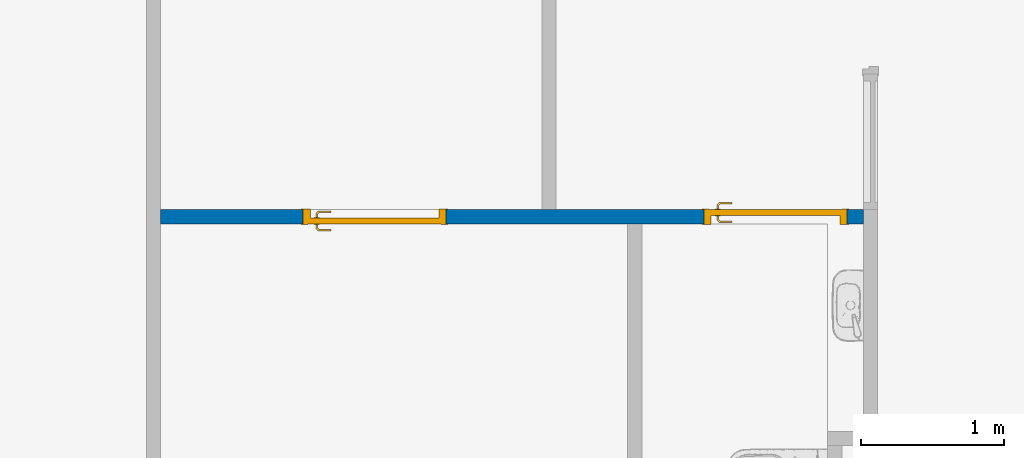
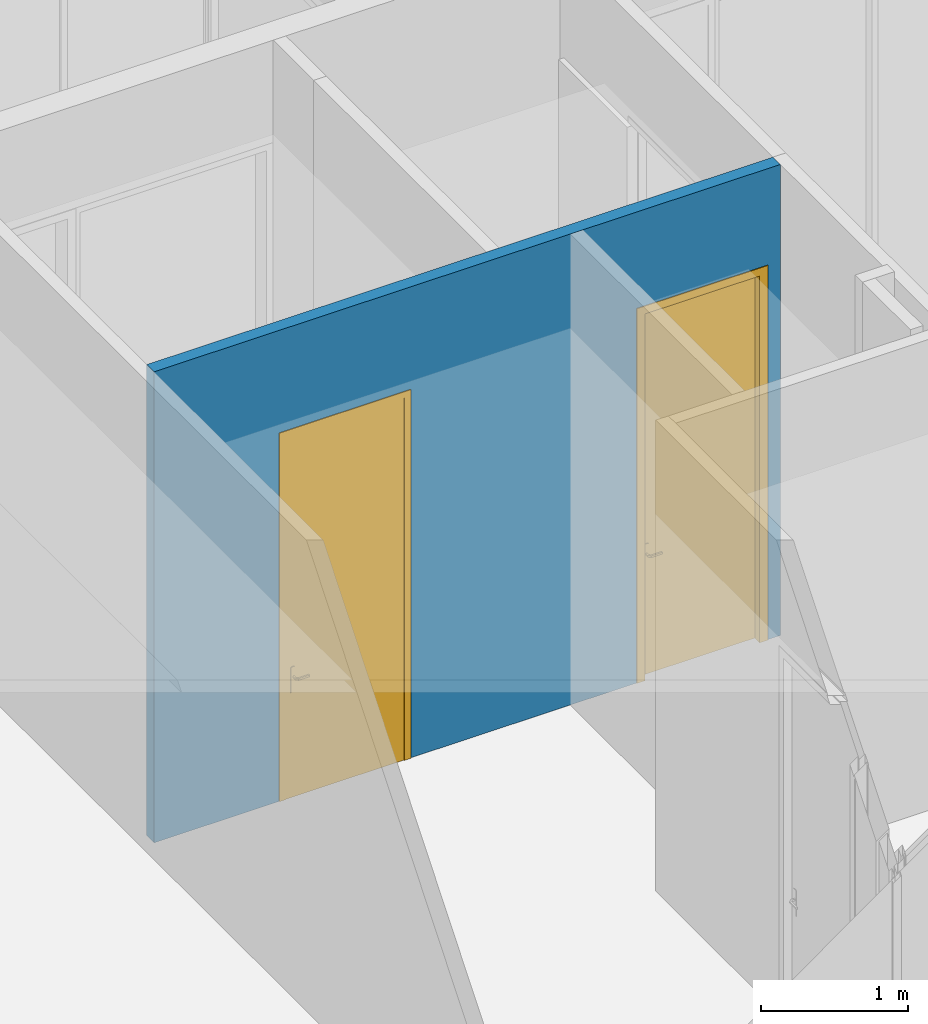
# One storey, part 150 of 240: 2 doors, 1 wall, 3 openings.
"""IFC2X3 building model written with IfcOpenShell, lengths in centimetres."""

from ifc_helpers import new_model, entity, si_unit, converted_unit, derived_unit, direction, frame, frame_2d, origin, place, context, subcontext, project, spatial, polyline, rectangle, extrude, clip, bounded_halfspace, faceted_brep, source, transform, mapped, material, material_list, layer, layer_set, layer_usage, type_object, type_shapes, element, fill, save


model = new_model("IFC2X3")

# Units and contexts
model_context = context("Model", 3, precision=0.001, world=origin(), true_north=direction((6.12303176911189e-17, 1.0)))
body_context = subcontext(model_context, "Body", "Model", "MODEL_VIEW")
ifc_project = project(units=[si_unit("LENGTHUNIT", "METRE", prefix="CENTI"), si_unit("AREAUNIT", "SQUARE_METRE"), si_unit("VOLUMEUNIT", "CUBIC_METRE"), converted_unit("PLANEANGLEUNIT", "DEGREE", entity("IfcRatioMeasure", 0.0174532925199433), si_unit("PLANEANGLEUNIT", "RADIAN"), dimensions=[0, 0, 0, 0, 0, 0, 0]), si_unit("MASSUNIT", "GRAM", prefix="KILO"), derived_unit("MASSDENSITYUNIT", [(si_unit("MASSUNIT", "GRAM", prefix="KILO"), 1), (si_unit("LENGTHUNIT", "METRE"), -3)]), si_unit("TIMEUNIT", "SECOND"), si_unit("FREQUENCYUNIT", "HERTZ"), si_unit("THERMODYNAMICTEMPERATUREUNIT", "DEGREE_CELSIUS"), derived_unit("THERMALTRANSMITTANCEUNIT", [(si_unit("MASSUNIT", "GRAM", prefix="KILO"), 1), (si_unit("THERMODYNAMICTEMPERATUREUNIT", "KELVIN"), -1), (si_unit("TIMEUNIT", "SECOND"), -3)]), derived_unit("VOLUMETRICFLOWRATEUNIT", [(si_unit("LENGTHUNIT", "METRE"), 3), (si_unit("TIMEUNIT", "SECOND"), -1)]), si_unit("ELECTRICCURRENTUNIT", "AMPERE"), si_unit("ELECTRICVOLTAGEUNIT", "VOLT"), si_unit("POWERUNIT", "WATT"), si_unit("FORCEUNIT", "NEWTON", prefix="KILO"), si_unit("ILLUMINANCEUNIT", "LUX"), si_unit("LUMINOUSFLUXUNIT", "LUMEN"), si_unit("LUMINOUSINTENSITYUNIT", "CANDELA"), derived_unit("USERDEFINED", [(si_unit("MASSUNIT", "GRAM", prefix="KILO"), -1), (si_unit("LENGTHUNIT", "METRE"), -2), (si_unit("TIMEUNIT", "SECOND"), 3), (si_unit("LUMINOUSFLUXUNIT", "LUMEN"), 1)]), derived_unit("LINEARVELOCITYUNIT", [(si_unit("LENGTHUNIT", "METRE"), 1), (si_unit("TIMEUNIT", "SECOND"), -1)]), si_unit("PRESSUREUNIT", "PASCAL"), derived_unit("USERDEFINED", [(si_unit("LENGTHUNIT", "METRE"), -2), (si_unit("MASSUNIT", "GRAM", prefix="KILO"), 1), (si_unit("TIMEUNIT", "SECOND"), -2)])], contexts=[model_context])

# Site, building, storey
site_placement = place(None, frame((-2781.94577612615, 7442.24238424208, 0.0)))
site = spatial("IfcSite", under=ifc_project, at=site_placement, Name="Default", CompositionType="ELEMENT")
building_placement = place(site_placement, origin())
building = spatial("IfcBuilding", under=site, at=building_placement, CompositionType="ELEMENT")
storey_placement = place(building_placement, origin())
storey = spatial("IfcBuildingStorey", under=building, at=storey_placement, Name="N00 - COO", CompositionType="ELEMENT", Elevation=0.0)

# Wall, openings, doors
ifc_material_1 = material(Name="01 - Enduit/Plâtre")
ifc_layer_1 = layer(ifc_material_1, 1.3)
ifc_material_2 = material(Name="00 - Isolant")
ifc_layer_2 = layer(ifc_material_2, 7.4)
ifc_layer_3 = layer(ifc_material_1, 1.3)
ifc_layer_set = layer_set([ifc_layer_1, ifc_layer_2, ifc_layer_3], Name="Mur de base:06 - cloisons - Ba13 10cm")
ifc_layer_usage = layer_usage(ifc_layer_set, "AXIS2", "NEGATIVE", 5.0)
wall_type = type_object("IfcWallType", Name="Mur de base:06 - cloisons - Ba13 10cm", PredefinedType="STANDARD", material=ifc_layer_set)
wall_placement = place(building_placement, frame((-5611.24987760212, -1405.0, 0.0)))
wall = element("IfcWallStandardCase", 1, at=wall_placement, inside=storey, type_object=wall_type, material=ifc_layer_usage, Name="Mur de base:06 - cloisons - Ba13 10cm", ObjectType="Mur de base:06 - cloisons - Ba13 10cm", context=body_context, shape_type="Clipping", body=[
    clip(extrude(rectangle(XDim=491.750000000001, YDim=9.99999999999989, at=frame_2d((245.875, 1.37667655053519e-14), x_axis=(-1.0, 0.0))), origin(), (0.0, 0.0, 1.0), 391.0), bounded_halfspace(frame((0.0, -5.0, 391.0), z_axis=(0.0, 0.0, -1.0), x_axis=(0.0, 1.0, 0.0)), True, frame((0.0, -5.0, 391.0)), polyline([(0.0, 0.0), (326.75, 0.0), (336.750000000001, 0.0), (491.750000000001, 0.0), (491.750000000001, 10.0), (276.749999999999, 10.0), (266.749999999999, 10.0), (0.0, 10.0), (0.0, 0.0)]))),
])
opening_1_placement = place(wall_placement, origin())
element("IfcOpeningElement", 2, at=opening_1_placement, cuts=wall, Name="Mur de base:06 - cloisons - Ba13 10cm", ObjectType="Opening", context=body_context, shape_type="SweptSolid", body=[
    extrude(rectangle(XDim=170.0, YDim=10.0000000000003, at=frame_2d((-4.33431068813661e-13, 0.0), x_axis=(0.0, 1.0))), frame((496.750000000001, 5.0, 165.0), z_axis=(0.0, 1.0, 0.0), x_axis=(-1.0, 0.0, 0.0)), (0.0, 0.0, 1.0), 94.9999999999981),
])
opening_2_placement = place(wall_placement, frame((199.749999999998, 5.0, 0.0)))
opening_2 = element("IfcOpeningElement", 3, at=opening_2_placement, cuts=wall, Name="Int. Simple:PV (0.93m x 3.00m):1", ObjectType="Opening", context=body_context, shape_type="SweptSolid", body=[
    extrude(rectangle(XDim=304.500000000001, YDim=99.9999999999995, at=frame_2d((152.250000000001, 50.0), x_axis=(1.0, 0.0))), frame((0.0, 0.0, 0.0), z_axis=(0.0, -1.0, 0.0), x_axis=(0.0, 0.0, 1.0)), (0.0, 0.0, 1.0), 10.0),
])
opening_3_placement = place(wall_placement, frame((380.249999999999, -5.0, 0.0)))
opening_3 = element("IfcOpeningElement", 4, at=opening_3_placement, cuts=wall, Name="Int. Simple:PP (0.93m x 3.06m):1", ObjectType="Opening", context=body_context, shape_type="SweptSolid", body=[
    extrude(rectangle(XDim=309.500000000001, YDim=99.9999999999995, at=frame_2d((154.750000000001, 49.9999999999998), x_axis=(1.0, 0.0))), frame((0.0, 0.0, 0.0), z_axis=(0.0, 1.0, 0.0), x_axis=(0.0, 0.0, 1.0)), (0.0, 0.0, 1.0), 10.0),
])
ifc_material_3 = material(Name="Finition Peinture - Blanc satiné")
ifc_material_4 = material(Name="Bois - Panneau de porte")
ifc_material_5 = material(Name="Bois - Cadre de porte")
ifc_material_list_1 = material_list([ifc_material_3, ifc_material_4, ifc_material_5])
ifc_material_list_2 = material_list([ifc_material_3, ifc_material_4, ifc_material_5])
door_style_1 = type_object("IfcDoorStyle", Name="PV (0.93m x 3.00m)", ConstructionType="NOTDEFINED", OperationType="SINGLE_SWING_LEFT", ParameterTakesPrecedence=False, Sizeable=False, material=ifc_material_list_2)
shared_shape_1 = source(origin(), body_context, "Body", "Brep", [
    faceted_brep([(10.5352761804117, -0.500000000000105, 86.6003983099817), (11.5000000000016, -0.500000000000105, 87.0), (11.5000000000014, -0.500000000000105, 108.0), (10.5352761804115, -0.500000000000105, 108.399601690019), (9.50000000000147, -0.500000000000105, 108.535898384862), (8.46472381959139, -0.500000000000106, 108.399601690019), (7.50000000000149, -0.500000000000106, 108.0), (7.50000000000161, -0.500000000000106, 87.0), (8.46472381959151, -0.500000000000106, 86.6003983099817), (9.50000000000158, -0.500000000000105, 86.464101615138), (10.5352761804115, 0.0, 108.399601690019), (11.5000000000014, 0.0, 108.0), (11.5000000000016, 0.0, 87.0), (10.5352761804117, 0.0, 86.6003983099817), (9.50000000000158, 0.0, 86.464101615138), (8.46472381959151, 0.0, 86.6003983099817), (7.50000000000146, 0.0, 87.0), (7.50000000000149, 0.0, 108.0), (8.46472381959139, 0.0, 108.399601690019), (9.50000000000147, 0.0, 108.535898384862)], [[[0, 1, 2, 3, 4, 5, 6, 7, 8, 9]], [[10, 11, 12, 13, 14, 15, 16, 17, 18, 19]], [[16, 15, 8, 7]], [[8, 15, 14, 9]], [[14, 13, 0, 9]], [[13, 12, 1, 0]], [[2, 1, 12, 11]], [[11, 10, 3, 2]], [[3, 10, 19, 4]], [[19, 18, 5, 4]], [[18, 17, 6, 5]], [[7, 6, 17, 16]]]),
    faceted_brep([(10.5352761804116, 4.0, 86.6003983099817), (11.5000000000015, 4.0, 87.0), (11.5000000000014, 4.0, 108.0), (10.5352761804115, 4.0, 108.399601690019), (9.50000000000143, 4.0, 108.535898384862), (8.46472381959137, 4.0, 108.399601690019), (7.50000000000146, 4.0, 108.0), (7.50000000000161, 4.0, 87.0), (8.46472381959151, 4.0, 86.6003983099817), (9.50000000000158, 4.0, 86.464101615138), (10.5352761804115, 4.49999999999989, 108.399601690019), (11.5000000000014, 4.49999999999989, 108.0), (11.5000000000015, 4.49999999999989, 87.0), (10.5352761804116, 4.49999999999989, 86.6003983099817), (9.50000000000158, 4.49999999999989, 86.464101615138), (8.46472381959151, 4.49999999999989, 86.6003983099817), (7.50000000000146, 4.49999999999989, 87.0), (7.50000000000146, 4.49999999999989, 108.0), (8.46472381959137, 4.49999999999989, 108.399601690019), (9.50000000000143, 4.49999999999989, 108.535898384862)], [[[0, 1, 2, 3, 4, 5, 6, 7, 8, 9]], [[10, 11, 12, 13, 14, 15, 16, 17, 18, 19]], [[11, 10, 3, 2]], [[3, 10, 19, 4]], [[19, 18, 5, 4]], [[18, 17, 6, 5]], [[7, 6, 17, 16]], [[16, 15, 8, 7]], [[8, 15, 14, 9]], [[14, 13, 0, 9]], [[13, 12, 1, 0]], [[2, 1, 12, 11]]]),
    faceted_brep([(9.29747013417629, -0.500000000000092, 100.778044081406), (9.70252986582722, -0.50000000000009, 100.778044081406), (10.1000000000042, -0.500000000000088, 100.699999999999), (10.1000000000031, -0.500000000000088, 99.3000000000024), (9.7025298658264, -0.50000000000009, 99.2219559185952), (9.29747013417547, -0.500000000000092, 99.221955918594), (8.8999999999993, -0.500000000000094, 99.2999999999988), (8.89999999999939, -0.500000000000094, 100.7), (8.89999999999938, -3.26509507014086, 100.7), (9.29747013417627, -3.10045754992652, 100.778044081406), (10.9023585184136, -4.70534593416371, 100.778044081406), (11.0701397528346, -4.30028620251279, 100.778044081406), (9.7025298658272, -2.93267631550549, 100.778044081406), (10.1000000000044, -2.76803879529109, 100.7), (10.1000000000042, -2.76803879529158, 99.3000000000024), (9.7025298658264, -2.93267631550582, 99.2219559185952), (11.0701397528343, -4.30028620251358, 99.2219559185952), (10.9023585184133, -4.70534593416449, 99.221955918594), (9.29747013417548, -3.10045754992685, 99.221955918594), (8.89999999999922, -3.26509507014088, 99.2999999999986), (10.7377209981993, -5.10281606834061, 100.7), (11.2347772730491, -3.90281606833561, 100.7), (11.2347772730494, -3.90281606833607, 99.3000000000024), (10.7377209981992, -5.10281606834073, 99.2999999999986), (19.5018640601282, -5.10281606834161, 99.2999999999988), (19.5018640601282, -4.70534593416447, 99.221955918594), (19.5018640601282, -4.30028620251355, 99.2219559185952), (19.5018640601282, -3.9028160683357, 99.3000000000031), (19.5018640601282, -3.90281606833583, 100.7), (19.5018640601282, -4.30028620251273, 100.778044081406), (19.5018640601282, -4.70534593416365, 100.778044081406), (19.5018640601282, -5.10281606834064, 100.699999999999), (14.7307697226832, -5.10281606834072, 100.7), (15.2860019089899, -4.5028160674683, 100.78786867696), (15.3683206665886, -3.9028160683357, 100.7), (15.3683206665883, -3.9028160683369, 99.3000000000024), (15.2860018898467, -4.50281607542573, 99.2121313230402), (14.7307700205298, -5.10281606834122, 99.2999999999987)], [[[0, 1, 2, 3, 4, 5, 6, 7]], [[8, 9, 0, 7]], [[9, 10, 11, 12, 1, 0]], [[12, 13, 2, 1]], [[3, 2, 13, 14]], [[14, 15, 4, 3]], [[15, 16, 17, 18, 5, 4]], [[18, 19, 6, 5]], [[7, 6, 19, 8]], [[20, 10, 9, 8]], [[11, 21, 13, 12]], [[14, 13, 21, 22]], [[22, 16, 15, 14]], [[17, 23, 19, 18]], [[8, 19, 23, 20]], [[24, 25, 26, 27, 28, 29, 30, 31]], [[32, 30, 33]], [[31, 30, 32]], [[10, 20, 32]], [[33, 34, 11]], [[21, 11, 34]], [[34, 29, 28]], [[30, 29, 33]], [[29, 34, 33]], [[10, 32, 33]], [[10, 33, 11]], [[22, 21, 34, 28, 27, 35]], [[35, 26, 36]], [[37, 36, 25]], [[22, 35, 16]], [[35, 27, 26]], [[24, 37, 25]], [[23, 17, 37]], [[37, 17, 36]], [[17, 16, 36]], [[16, 35, 36]], [[25, 36, 26]], [[20, 23, 37, 24, 31, 32]]]),
    faceted_brep([(9.29747013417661, 4.49999999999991, 100.778044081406), (8.89999999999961, 4.4999999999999, 100.7), (8.89999999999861, 4.4999999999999, 99.2999999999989), (9.29747013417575, 4.49999999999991, 99.221955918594), (9.70252986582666, 4.49999999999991, 99.2219559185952), (10.1000000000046, 4.49999999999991, 99.3000000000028), (10.1000000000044, 4.49999999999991, 100.7), (9.70252986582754, 4.49999999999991, 100.778044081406), (10.1000000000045, 6.7485204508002, 99.3000000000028), (10.1000000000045, 6.74852045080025, 100.7), (9.70252986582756, 6.91315797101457, 100.778044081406), (11.083890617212, 8.29451872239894, 100.778044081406), (10.916109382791, 8.69957845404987, 100.778044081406), (9.29747013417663, 7.0809392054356, 100.778044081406), (8.89999999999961, 7.24557672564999, 100.7), (8.89999999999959, 7.2455767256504, 99.2999999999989), (9.29747013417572, 7.08093920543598, 99.221955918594), (10.9161093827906, 8.69957845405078, 99.221955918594), (11.0838906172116, 8.29451872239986, 99.2219559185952), (9.70252986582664, 6.91315797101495, 99.2219559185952), (11.2485281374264, 7.89704858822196, 99.3000000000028), (11.2485281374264, 7.89704858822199, 100.7), (10.7514718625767, 9.09704858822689, 100.7), (10.7514718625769, 9.0970485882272, 99.2999999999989), (19.5045783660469, 7.89704858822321, 99.3000000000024), (19.5045783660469, 8.29451872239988, 99.2219559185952), (19.5045783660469, 8.6995784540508, 99.221955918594), (19.5045783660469, 9.09704858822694, 99.2999999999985), (19.5045783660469, 9.09704858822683, 100.7), (19.5045783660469, 8.69957845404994, 100.778044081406), (19.5045783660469, 8.29451872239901, 100.778044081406), (19.5045783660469, 7.89704858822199, 100.7), (15.3765520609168, 7.89704858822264, 99.3000000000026), (15.3765532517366, 7.89704858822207, 100.7), (15.294234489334, 8.49704858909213, 100.78786867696), (14.7445205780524, 9.09704858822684, 100.7), (14.7445204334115, 9.09704858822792, 99.2999999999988), (15.2942345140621, 8.49704858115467, 99.2121313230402)], [[[0, 1, 2, 3, 4, 5, 6, 7]], [[6, 5, 8, 9]], [[9, 10, 7, 6]], [[10, 11, 12, 13, 0, 7]], [[13, 14, 1, 0]], [[2, 1, 14, 15]], [[15, 16, 3, 2]], [[16, 17, 18, 19, 4, 3]], [[19, 8, 5, 4]], [[9, 8, 20, 21]], [[21, 11, 10, 9]], [[12, 22, 14, 13]], [[15, 14, 22, 23]], [[23, 17, 16, 15]], [[18, 20, 8, 19]], [[24, 25, 26, 27, 28, 29, 30, 31]], [[21, 20, 32, 24, 31, 33]], [[33, 30, 34]], [[35, 34, 29]], [[21, 33, 11]], [[33, 31, 30]], [[28, 35, 29]], [[22, 12, 35]], [[35, 12, 34]], [[12, 11, 34]], [[11, 33, 34]], [[29, 34, 30]], [[22, 35, 28, 27, 36, 23]], [[36, 26, 37]], [[27, 26, 36]], [[17, 23, 36]], [[37, 32, 18]], [[20, 18, 32]], [[32, 25, 24]], [[26, 25, 37]], [[25, 32, 37]], [[17, 36, 37]], [[17, 37, 18]]]),
    faceted_brep([(3.50000000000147, 4.0, 301.0), (96.5000000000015, 4.0, 301.0), (96.5000000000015, 4.0, 0.0), (3.50000000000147, 4.0, 0.0), (3.50000000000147, 0.0, 301.0), (3.50000000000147, 0.0, 0.0), (96.5000000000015, 0.0, 0.0), (96.5000000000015, 0.0, 301.0)], [[[0, 1, 2, 3]], [[4, 5, 6, 7]], [[1, 0, 4, 7]], [[2, 1, 7, 6]], [[3, 2, 6, 5]], [[0, 3, 5, 4]]]),
    faceted_brep([(0.0, 10.0, 0.0), (-1.50000000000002, 10.0, 0.0), (-1.50000000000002, 10.5000000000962, 0.0), (5.0, 10.5000000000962, 0.0), (5.0, 4.0, 0.0), (3.50000000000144, 4.0, 0.0), (3.50000000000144, -0.500000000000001, 0.0), (-1.50000000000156, -0.500000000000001, 0.0), (-1.50000000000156, 0.0, 0.0), (0.0, 0.0, 0.0), (0.0, 10.0, 304.500000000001), (100.0, 10.0, 304.500000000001), (100.0, 10.0, 0.0), (101.5, 10.0, 0.0), (101.5, 10.0, 306.0), (-1.50000000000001, 10.0, 306.0), (-1.50000000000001, 10.5000000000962, 306.0), (101.5, 10.5000000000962, 306.0), (101.5, 10.5000000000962, 0.0), (95.0, 10.5000000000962, 0.0), (95.0, 10.5000000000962, 299.5), (5.0, 10.5000000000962, 299.5), (5.0, 4.0, 299.5), (95.0, 4.0, 299.5), (95.0, 4.0, 0.0), (96.4999999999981, 4.0, 0.0), (96.4999999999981, 4.0, 301.0), (3.50000000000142, 4.0, 301.0), (3.50000000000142, -0.500000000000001, 301.0), (96.4999999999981, -0.500000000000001, 301.0), (96.4999999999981, -0.500000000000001, 0.0), (101.500000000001, -0.500000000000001, 0.0), (101.500000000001, -0.500000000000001, 306.0), (-1.50000000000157, -0.500000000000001, 306.0), (-1.50000000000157, 0.0, 306.0), (101.500000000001, 0.0, 306.0), (101.500000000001, 0.0, 0.0), (100.0, 0.0, 0.0), (100.0, 0.0, 304.500000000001), (0.0, 0.0, 304.500000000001)], [[[0, 1, 2, 3, 4, 5, 6, 7, 8, 9]], [[1, 0, 10, 11, 12, 13, 14, 15]], [[2, 1, 15, 16]], [[3, 2, 16, 17, 18, 19, 20, 21]], [[3, 21, 22, 4]], [[5, 4, 22, 23, 24, 25, 26, 27]], [[5, 27, 28, 6]], [[7, 6, 28, 29, 30, 31, 32, 33]], [[8, 7, 33, 34]], [[9, 8, 34, 35, 36, 37, 38, 39]], [[0, 9, 39, 10]], [[11, 38, 37, 12]], [[12, 37, 36, 31, 30, 25, 24, 19, 18, 13]], [[17, 14, 13, 18]], [[23, 20, 19, 24]], [[29, 26, 25, 30]], [[35, 32, 31, 36]], [[10, 39, 38, 11]], [[16, 15, 14, 17]], [[22, 21, 20, 23]], [[28, 27, 26, 29]], [[34, 33, 32, 35]]]),
])
type_shapes(door_style_1, [shared_shape_1])
door_1_placement = place(opening_2_placement, frame((-100.0, -10.0, 0.0)))
door_1 = element("IfcDoor", 5, at=door_1_placement, inside=storey, type_object=door_style_1, material=ifc_material_list_1, Name="Int. Simple:PV (0.93m x 3.00m)", ObjectType="Int. Simple:PV (0.93m x 3.00m)", OverallHeight=304.500000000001, OverallWidth=99.9999999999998, context=body_context, shape_type="MappedRepresentation", body=[
    mapped(shared_shape_1, transform((0.0, 0.0, 0.0), scale=1.0)),
])
fill(opening_2, door_1)
ifc_material_list_3 = material_list([ifc_material_3, ifc_material_4, ifc_material_5])
ifc_material_list_4 = material_list([ifc_material_3, ifc_material_4, ifc_material_5])
door_style_2 = type_object("IfcDoorStyle", Name="PP (0.93m x 3.06m)", ConstructionType="NOTDEFINED", OperationType="SINGLE_SWING_RIGHT", ParameterTakesPrecedence=False, Sizeable=False, material=ifc_material_list_4)
shared_shape_2 = source(origin(), body_context, "Body", "Brep", [
    faceted_brep([(99.5000000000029, -0.500000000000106, 87.0), (99.5000000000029, -0.500000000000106, 108.0), (98.535276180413, -0.500000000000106, 108.399601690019), (97.5000000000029, -0.500000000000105, 108.535898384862), (96.4647238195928, -0.500000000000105, 108.399601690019), (95.500000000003, -0.500000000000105, 108.0), (95.5000000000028, -0.500000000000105, 87.0), (96.4647238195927, -0.500000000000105, 86.6003983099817), (97.5000000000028, -0.500000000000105, 86.464101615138), (98.5352761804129, -0.500000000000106, 86.6003983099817), (99.5000000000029, 0.0, 108.0), (99.5000000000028, 0.0, 87.0), (98.5352761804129, 0.0, 86.6003983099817), (97.5000000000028, 0.0, 86.464101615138), (96.4647238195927, 0.0, 86.6003983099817), (95.5000000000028, 0.0, 87.0), (95.5000000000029, 0.0, 108.0), (96.4647238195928, 0.0, 108.399601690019), (97.5000000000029, 0.0, 108.535898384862), (98.535276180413, 0.0, 108.399601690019)], [[[0, 1, 2, 3, 4, 5, 6, 7, 8, 9]], [[10, 11, 12, 13, 14, 15, 16, 17, 18, 19]], [[9, 12, 11, 0]], [[8, 13, 12, 9]], [[7, 14, 13, 8]], [[7, 6, 15, 14]], [[15, 6, 5, 16]], [[4, 17, 16, 5]], [[3, 18, 17, 4]], [[2, 19, 18, 3]], [[2, 1, 10, 19]], [[11, 10, 1, 0]]]),
    faceted_brep([(99.5000000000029, 4.0, 87.0), (99.5000000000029, 4.0, 108.0), (98.535276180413, 4.0, 108.399601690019), (97.5000000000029, 4.0, 108.535898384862), (96.4647238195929, 4.0, 108.399601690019), (95.500000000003, 4.0, 108.0), (95.5000000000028, 4.0, 87.0), (96.4647238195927, 4.0, 86.6003983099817), (97.5000000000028, 4.0, 86.464101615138), (98.5352761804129, 4.0, 86.6003983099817), (97.5000000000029, 4.49999999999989, 108.535898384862), (98.535276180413, 4.49999999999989, 108.399601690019), (99.5000000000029, 4.49999999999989, 108.0), (99.5000000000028, 4.49999999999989, 87.0), (98.5352761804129, 4.49999999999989, 86.6003983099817), (97.5000000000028, 4.49999999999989, 86.464101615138), (96.4647238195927, 4.49999999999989, 86.6003983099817), (95.5000000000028, 4.49999999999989, 87.0), (95.500000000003, 4.49999999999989, 108.0), (96.4647238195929, 4.49999999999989, 108.399601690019)], [[[0, 1, 2, 3, 4, 5, 6, 7, 8, 9]], [[10, 11, 12, 13, 14, 15, 16, 17, 18, 19]], [[4, 19, 18, 5]], [[3, 10, 19, 4]], [[2, 11, 10, 3]], [[2, 1, 12, 11]], [[13, 12, 1, 0]], [[9, 14, 13, 0]], [[8, 15, 14, 9]], [[7, 16, 15, 8]], [[7, 6, 17, 16]], [[17, 6, 5, 18]]]),
    faceted_brep([(97.2974701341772, -0.50000000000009, 100.778044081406), (97.7025298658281, -0.500000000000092, 100.778044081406), (98.1000000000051, -0.500000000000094, 100.699999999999), (98.100000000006, -0.500000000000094, 99.2999999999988), (97.7025298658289, -0.500000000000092, 99.221955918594), (97.297470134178, -0.50000000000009, 99.2219559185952), (96.9000000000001, -0.500000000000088, 99.3000000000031), (96.9000000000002, -0.500000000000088, 100.7), (97.7025298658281, -3.10045754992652, 100.778044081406), (98.1000000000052, -3.26509507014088, 100.7), (97.2974701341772, -2.93267631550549, 100.778044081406), (95.9298602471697, -4.30028620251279, 100.778044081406), (96.0976414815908, -4.70534593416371, 100.778044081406), (96.9000000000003, -2.76803879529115, 100.7), (96.9000000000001, -2.76803879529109, 99.3000000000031), (97.297470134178, -2.93267631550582, 99.2219559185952), (97.7025298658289, -3.10045754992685, 99.221955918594), (96.0976414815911, -4.70534593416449, 99.221955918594), (95.9298602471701, -4.30028620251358, 99.2219559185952), (98.100000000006, -3.26509507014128, 99.2999999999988), (96.2622790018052, -5.10281606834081, 100.7), (95.7652227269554, -3.90281606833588, 100.7), (95.7652227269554, -3.90281606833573, 99.3000000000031), (96.2622790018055, -5.10281606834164, 99.2999999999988), (87.4981359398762, -5.10281606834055, 100.7), (87.4981359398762, -4.70534593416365, 100.778044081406), (87.4981359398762, -4.30028620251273, 100.778044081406), (87.4981359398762, -3.90281606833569, 100.699999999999), (87.4981359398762, -3.90281606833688, 99.3000000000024), (87.4981359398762, -4.30028620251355, 99.2219559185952), (87.4981359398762, -4.70534593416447, 99.221955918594), (87.4981359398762, -5.10281606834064, 99.2999999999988), (91.7139980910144, -4.5028160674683, 100.78786867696), (92.2692302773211, -5.1028160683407, 100.7), (91.6316793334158, -3.9028160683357, 100.7), (91.631679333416, -3.9028160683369, 99.3000000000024), (91.7139981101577, -4.50281607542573, 99.2121313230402), (92.2692310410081, -5.10281606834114, 99.2999999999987)], [[[0, 1, 2, 3, 4, 5, 6, 7]], [[2, 1, 8, 9]], [[1, 0, 10, 11, 12, 8]], [[0, 7, 13, 10]], [[14, 13, 7, 6]], [[5, 15, 14, 6]], [[5, 4, 16, 17, 18, 15]], [[3, 19, 16, 4]], [[9, 19, 3, 2]], [[9, 8, 12, 20]], [[10, 13, 21, 11]], [[22, 21, 13, 14]], [[14, 15, 18, 22]], [[16, 19, 23, 17]], [[20, 23, 19, 9]], [[24, 25, 26, 27, 28, 29, 30, 31]], [[32, 25, 33]], [[33, 25, 24]], [[33, 20, 12]], [[11, 34, 32]], [[34, 11, 21]], [[27, 26, 34]], [[32, 26, 25]], [[32, 34, 26]], [[32, 33, 12]], [[11, 32, 12]], [[21, 22, 35, 28, 27, 34]], [[36, 29, 35]], [[30, 36, 37]], [[18, 35, 22]], [[29, 28, 35]], [[30, 37, 31]], [[37, 17, 23]], [[36, 17, 37]], [[36, 18, 17]], [[36, 35, 18]], [[29, 36, 30]], [[23, 20, 33, 24, 31, 37]]]),
    faceted_brep([(97.2974701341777, 4.49999999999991, 99.2219559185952), (97.7025298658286, 4.49999999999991, 99.221955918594), (98.1000000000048, 4.4999999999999, 99.2999999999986), (98.1000000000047, 4.4999999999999, 100.7), (97.7025298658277, 4.49999999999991, 100.778044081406), (97.2974701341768, 4.49999999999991, 100.778044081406), (96.8999999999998, 4.49999999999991, 100.7), (96.900000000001, 4.49999999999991, 99.3000000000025), (96.8999999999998, 6.7485204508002, 100.7), (96.8999999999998, 6.74852045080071, 99.3000000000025), (97.2974701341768, 6.91315797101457, 100.778044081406), (97.7025298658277, 7.0809392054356, 100.778044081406), (96.0838906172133, 8.69957845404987, 100.778044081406), (95.9161093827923, 8.29451872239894, 100.778044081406), (98.1000000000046, 7.24557672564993, 100.7), (98.1000000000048, 7.24557672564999, 99.2999999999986), (97.7025298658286, 7.08093920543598, 99.221955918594), (97.2974701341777, 6.91315797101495, 99.2219559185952), (95.9161093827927, 8.29451872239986, 99.2219559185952), (96.0838906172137, 8.69957845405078, 99.221955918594), (95.751471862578, 7.89704858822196, 100.7), (95.7514718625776, 7.89704858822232, 99.3000000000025), (96.2485281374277, 9.09704858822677, 100.7), (96.2485281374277, 9.09704858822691, 99.2999999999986), (87.4954216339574, 8.29451872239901, 100.778044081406), (87.4954216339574, 8.69957845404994, 100.778044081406), (87.4954216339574, 9.09704858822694, 100.7), (87.4954216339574, 9.09704858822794, 99.2999999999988), (87.4954216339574, 8.6995784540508, 99.221955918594), (87.4954216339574, 8.29451872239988, 99.2219559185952), (87.4954216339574, 7.89704858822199, 99.3000000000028), (87.4954216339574, 7.89704858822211, 100.7), (91.6234467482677, 7.89704858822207, 100.7), (91.6234479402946, 7.89704858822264, 99.3000000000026), (91.7057655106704, 8.49704858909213, 100.78786867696), (92.255479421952, 9.09704858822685, 100.7), (92.2554795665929, 9.09704858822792, 99.2999999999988), (91.7057654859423, 8.49704858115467, 99.2121313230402)], [[[0, 1, 2, 3, 4, 5, 6, 7]], [[8, 9, 7, 6]], [[5, 10, 8, 6]], [[5, 4, 11, 12, 13, 10]], [[3, 14, 11, 4]], [[14, 3, 2, 15]], [[2, 1, 16, 15]], [[1, 0, 17, 18, 19, 16]], [[0, 7, 9, 17]], [[20, 21, 9, 8]], [[8, 10, 13, 20]], [[14, 22, 12, 11]], [[23, 22, 14, 15]], [[15, 16, 19, 23]], [[17, 9, 21, 18]], [[24, 25, 26, 27, 28, 29, 30, 31]], [[21, 20, 32, 31, 30, 33]], [[34, 24, 32]], [[25, 34, 35]], [[13, 32, 20]], [[24, 31, 32]], [[25, 35, 26]], [[35, 12, 22]], [[34, 12, 35]], [[34, 13, 12]], [[34, 32, 13]], [[24, 34, 25]], [[22, 23, 36, 27, 26, 35]], [[37, 28, 36]], [[36, 28, 27]], [[36, 23, 19]], [[18, 33, 37]], [[33, 18, 21]], [[30, 29, 33]], [[37, 29, 28]], [[37, 33, 29]], [[37, 36, 19]], [[18, 37, 19]]]),
    faceted_brep([(103.500000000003, 4.0, 306.0), (103.500000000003, 4.0, 0.0), (10.5000000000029, 4.0, 0.0), (10.5000000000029, 4.0, 306.0), (103.500000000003, 0.0, 306.0), (10.5000000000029, 0.0, 306.0), (10.5000000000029, 0.0, 0.0), (103.500000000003, 0.0, 0.0)], [[[0, 1, 2, 3]], [[4, 5, 6, 7]], [[3, 5, 4, 0]], [[2, 6, 5, 3]], [[1, 7, 6, 2]], [[0, 4, 7, 1]]]),
    faceted_brep([(107.0, 10.0, 0.0), (107.0, 0.0, 0.0), (108.500000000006, 0.0, 0.0), (108.500000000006, -0.500000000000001, 0.0), (103.500000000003, -0.500000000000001, 0.0), (103.500000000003, 4.0, 0.0), (102.0, 4.0, 0.0), (102.0, 10.5000000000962, 0.0), (108.500000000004, 10.5000000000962, 0.0), (108.500000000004, 10.0, 0.0), (108.500000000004, 10.0, 311.0), (5.50000000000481, 10.0, 311.0), (5.50000000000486, 10.0, 0.0), (7.0, 10.0, 0.0), (7.0, 10.0, 309.500000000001), (107.0, 10.0, 309.500000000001), (108.500000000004, 10.5000000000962, 311.0), (102.0, 10.5000000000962, 304.5), (12.0, 10.5000000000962, 304.5), (12.0, 10.5000000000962, 0.0), (5.50000000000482, 10.5000000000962, 0.0), (5.50000000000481, 10.5000000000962, 311.0), (102.0, 4.0, 304.5), (103.500000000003, 4.0, 306.0), (10.5000000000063, 4.0, 306.0), (10.5000000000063, 4.0, 0.0), (12.0, 4.0, 0.0), (12.0, 4.0, 304.5), (103.500000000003, -0.500000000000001, 306.0), (108.500000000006, -0.500000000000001, 311.0), (5.5000000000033, -0.500000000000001, 311.0), (5.50000000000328, -0.500000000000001, 0.0), (10.5000000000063, -0.500000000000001, 0.0), (10.5000000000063, -0.500000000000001, 306.0), (108.500000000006, 0.0, 311.0), (107.0, 0.0, 309.500000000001), (7.0, 0.0, 309.500000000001), (7.0, 0.0, 0.0), (5.5000000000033, 0.0, 0.0), (5.50000000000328, 0.0, 311.0)], [[[0, 1, 2, 3, 4, 5, 6, 7, 8, 9]], [[9, 10, 11, 12, 13, 14, 15, 0]], [[8, 16, 10, 9]], [[7, 17, 18, 19, 20, 21, 16, 8]], [[7, 6, 22, 17]], [[5, 23, 24, 25, 26, 27, 22, 6]], [[5, 4, 28, 23]], [[3, 29, 30, 31, 32, 33, 28, 4]], [[2, 34, 29, 3]], [[1, 35, 36, 37, 38, 39, 34, 2]], [[0, 15, 35, 1]], [[14, 13, 37, 36]], [[13, 12, 20, 19, 26, 25, 32, 31, 38, 37]], [[21, 20, 12, 11]], [[27, 26, 19, 18]], [[33, 32, 25, 24]], [[39, 38, 31, 30]], [[16, 21, 11, 10]], [[22, 27, 18, 17]], [[28, 33, 24, 23]], [[34, 39, 30, 29]], [[15, 14, 36, 35]]]),
])
type_shapes(door_style_2, [shared_shape_2])
door_2_placement = place(opening_3_placement, frame((107.0, 10.0, 0.0), z_axis=(0.0, 0.0, 1.0), x_axis=(-1.0, 0.0, 0.0)))
door_2 = element("IfcDoor", 6, at=door_2_placement, inside=storey, type_object=door_style_2, material=ifc_material_list_3, Name="Int. Simple:PP (0.93m x 3.06m)", ObjectType="Int. Simple:PP (0.93m x 3.06m)", OverallHeight=309.500000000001, OverallWidth=99.9999999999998, context=body_context, shape_type="MappedRepresentation", body=[
    mapped(shared_shape_2, transform((0.0, 0.0, 0.0), scale=1.0)),
])
fill(opening_3, door_2)

save(model, "model.ifc")
